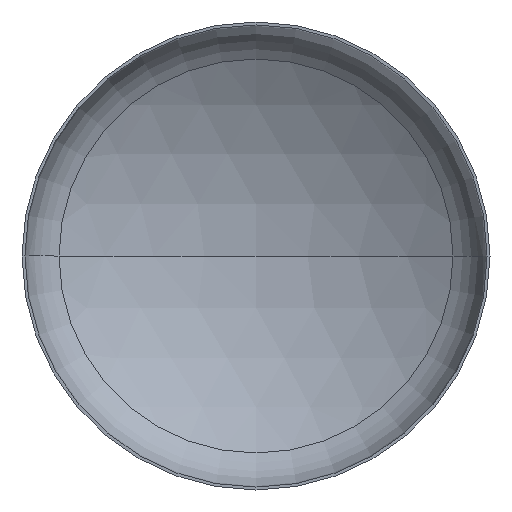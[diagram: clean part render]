
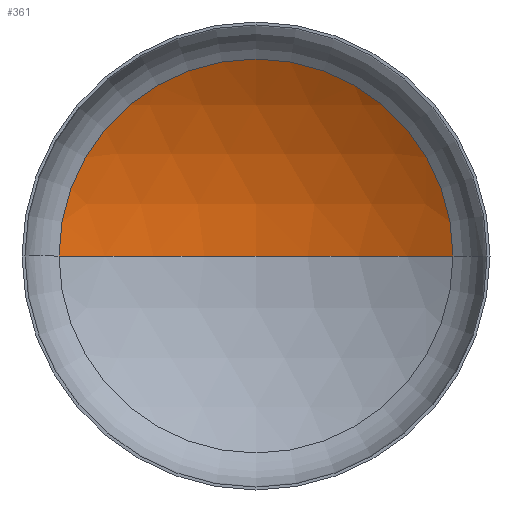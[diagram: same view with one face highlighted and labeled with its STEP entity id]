
A CAD part, front view. The second image highlights one B-rep face of the part: STEP entity #361.
In plain terms, the highlighted spherical face has radius 6400 mm.
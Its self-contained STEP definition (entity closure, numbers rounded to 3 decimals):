
#35 = ORIENTED_EDGE ( 'NONE', *, *, #123, .T. ) ;
#38 = ORIENTED_EDGE ( 'NONE', *, *, #127, .T. ) ;
#52 = VERTEX_POINT ( 'NONE', #266 ) ;
#74 = VERTEX_POINT ( 'NONE', #248 ) ;
#76 = AXIS2_PLACEMENT_3D ( 'NONE', #191, #193, #200 ) ;
#80 = AXIS2_PLACEMENT_3D ( 'NONE', #219, #225, #215 ) ;
#83 = AXIS2_PLACEMENT_3D ( 'NONE', #202, #298, #297 ) ;
#97 = ORIENTED_EDGE ( 'NONE', *, *, #131, .F. ) ;
#99 = VERTEX_POINT ( 'NONE', #252 ) ;
#108 = EDGE_LOOP ( 'NONE', ( #97, #38, #35 ) ) ;
#123 = EDGE_CURVE ( 'NONE', #74, #52, #406, .T. ) ;
#127 = EDGE_CURVE ( 'NONE', #99, #74, #352, .T. ) ;
#131 = EDGE_CURVE ( 'NONE', #99, #52, #295, .T. ) ;
#191 = CARTESIAN_POINT ( 'NONE',  ( 0., -4246.646, 0. ) ) ;
#193 = DIRECTION ( 'NONE',  ( 0., 0., 1. ) ) ;
#200 = DIRECTION ( 'NONE',  ( 1., 0., 0. ) ) ;
#202 = CARTESIAN_POINT ( 'NONE',  ( 0., 1196.011, 0. ) ) ;
#215 = DIRECTION ( 'NONE',  ( -1., 0., 0. ) ) ;
#219 = CARTESIAN_POINT ( 'NONE',  ( 0., -4246.646, 0. ) ) ;
#225 = DIRECTION ( 'NONE',  ( 0., 0., -1. ) ) ;
#248 = CARTESIAN_POINT ( 'NONE',  ( 3367.118, 1196.011, 0. ) ) ;
#252 = CARTESIAN_POINT ( 'NONE',  ( 0., 2153.354, 0. ) ) ;
#266 = CARTESIAN_POINT ( 'NONE',  ( -3367.118, 1196.011, 0. ) ) ;
#295 = CIRCLE ( 'NONE', #76, 6400. ) ;
#297 = DIRECTION ( 'NONE',  ( 1., 0., 0. ) ) ;
#298 = DIRECTION ( 'NONE',  ( 0., -1., 0. ) ) ;
#303 = DIRECTION ( 'NONE',  ( 0., 0., -1. ) ) ;
#306 = AXIS2_PLACEMENT_3D ( 'NONE', #356, #303, #316 ) ;
#316 = DIRECTION ( 'NONE',  ( -1., 0., 0. ) ) ;
#321 = FACE_OUTER_BOUND ( 'NONE', #108, .T. ) ;
#352 = CIRCLE ( 'NONE', #80, 6400. ) ;
#356 = CARTESIAN_POINT ( 'NONE',  ( 0., -4246.646, 0. ) ) ;
#361 = ADVANCED_FACE ( 'NONE', ( #321 ), #369, .F. ) ;
#369 = SPHERICAL_SURFACE ( 'NONE', #306, 6400. ) ;
#406 = CIRCLE ( 'NONE', #83, 3367.118 ) ;
